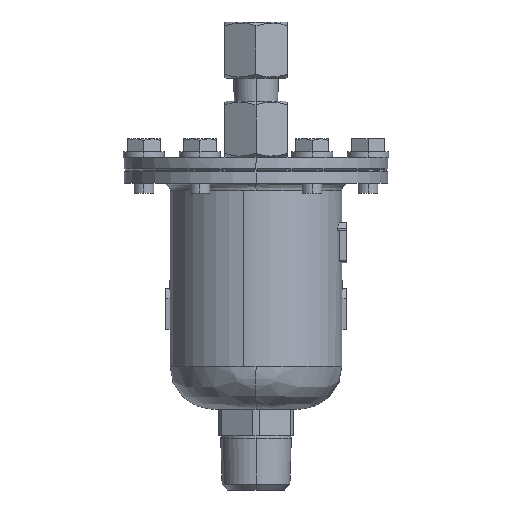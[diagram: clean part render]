
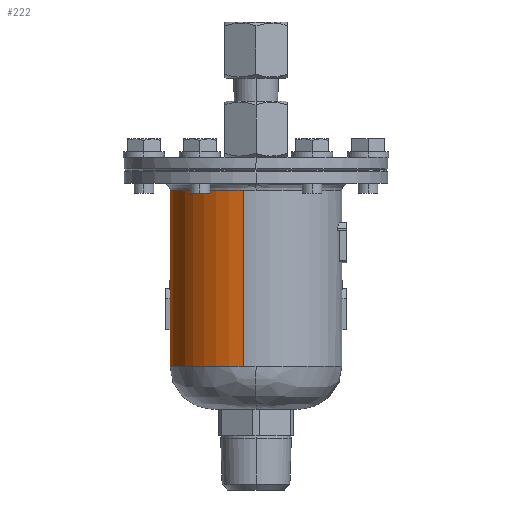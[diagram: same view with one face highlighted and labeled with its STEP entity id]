
A CAD part, left-side view. The second image highlights one B-rep face of the part: STEP entity #222.
In plain terms, the highlighted cylindrical face has radius 26.1 mm (diameter 52.2 mm), a partial arc.
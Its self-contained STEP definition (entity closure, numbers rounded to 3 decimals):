
#222=ADVANCED_FACE('',(#2117,#2118),#2116,.T.);
#2116=CYLINDRICAL_SURFACE('',#4074,26.1);
#2117=FACE_OUTER_BOUND('',#4075,.T.);
#2118=FACE_BOUND('',#4076,.T.);
#4071=CARTESIAN_POINT('',(0.,0.,0.));
#4072=DIRECTION('',(0.,0.,1.));
#4073=DIRECTION('',(-0.989,0.148,0.));
#4074=AXIS2_PLACEMENT_3D('',#4071,#4072,#4073);
#4075=EDGE_LOOP('',(#5443,#5444,#5445,#5446,#5447,#5448));
#4076=EDGE_LOOP('',(#5449,#5450,#5451,#5452,#5453,#5454,#5455));
#5443=ORIENTED_EDGE('',*,*,#6206,.F.);
#5444=ORIENTED_EDGE('',*,*,#6207,.F.);
#5445=ORIENTED_EDGE('',*,*,#6202,.T.);
#5446=ORIENTED_EDGE('',*,*,#6208,.T.);
#5447=ORIENTED_EDGE('',*,*,#6209,.T.);
#5448=ORIENTED_EDGE('',*,*,#6205,.F.);
#5449=ORIENTED_EDGE('',*,*,#5883,.T.);
#5450=ORIENTED_EDGE('',*,*,#5884,.T.);
#5451=ORIENTED_EDGE('',*,*,#5873,.T.);
#5452=ORIENTED_EDGE('',*,*,#5875,.T.);
#5453=ORIENTED_EDGE('',*,*,#5877,.T.);
#5454=ORIENTED_EDGE('',*,*,#5879,.T.);
#5455=ORIENTED_EDGE('',*,*,#5881,.T.);
#5873=EDGE_CURVE('',#7403,#7410,#7417,.T.);
#5875=EDGE_CURVE('',#7410,#7423,#7430,.T.);
#5877=EDGE_CURVE('',#7423,#7436,#7443,.T.);
#5879=EDGE_CURVE('',#7436,#7449,#7456,.T.);
#5881=EDGE_CURVE('',#7449,#7462,#7469,.T.);
#5883=EDGE_CURVE('',#7462,#7475,#7482,.T.);
#5884=EDGE_CURVE('',#7475,#7403,#7488,.T.);
#6202=EDGE_CURVE('',#9599,#9592,#9600,.T.);
#6205=EDGE_CURVE('',#9613,#9584,#9620,.T.);
#6206=EDGE_CURVE('',#9626,#9613,#9627,.T.);
#6207=EDGE_CURVE('',#9599,#9626,#9633,.T.);
#6208=EDGE_CURVE('',#9592,#9639,#9640,.T.);
#6209=EDGE_CURVE('',#9639,#9584,#9646,.T.);
#7403=VERTEX_POINT('',#10950);
#7410=VERTEX_POINT('',#10954);
#7417=LINE('',#10958,#10959);
#7423=VERTEX_POINT('',#10961);
#7430=CIRCLE('',#10968,26.1);
#7436=VERTEX_POINT('',#10969);
#7443=LINE('',#10973,#10974);
#7449=VERTEX_POINT('',#10976);
#7456=CIRCLE('',#10983,26.1);
#7462=VERTEX_POINT('',#10984);
#7469=(BOUNDED_CURVE() B_SPLINE_CURVE(2,(#10988,#10989,#10990),.UNSPECIFIED.,.F.,.F.) B_SPLINE_CURVE_WITH_KNOTS((3,3),(1.511,1.571),.UNSPECIFIED.) CURVE() GEOMETRIC_REPRESENTATION_ITEM() RATIONAL_B_SPLINE_CURVE((1.,1.,1.)) REPRESENTATION_ITEM('') );
#7475=VERTEX_POINT('',#10991);
#7482=(BOUNDED_CURVE() B_SPLINE_CURVE(2,(#10995,#10996,#10997),.UNSPECIFIED.,.F.,.F.) B_SPLINE_CURVE_WITH_KNOTS((3,3),(4.712,4.772),.UNSPECIFIED.) CURVE() GEOMETRIC_REPRESENTATION_ITEM() RATIONAL_B_SPLINE_CURVE((1.,1.,1.)) REPRESENTATION_ITEM('') );
#7488=CIRCLE('',#11001,26.1);
#9584=VERTEX_POINT('',#12787);
#9592=VERTEX_POINT('',#12793);
#9599=VERTEX_POINT('',#12798);
#9600=(BOUNDED_CURVE() B_SPLINE_CURVE(1,(#12799,#12800),.UNSPECIFIED.,.F.,.F.) B_SPLINE_CURVE_WITH_KNOTS((2,2),(0.083,0.917),.UNSPECIFIED.) CURVE() GEOMETRIC_REPRESENTATION_ITEM() RATIONAL_B_SPLINE_CURVE((1.,1.)) REPRESENTATION_ITEM('') );
#9613=VERTEX_POINT('',#12806);
#9620=(BOUNDED_CURVE() B_SPLINE_CURVE(1,(#12811,#12812),.UNSPECIFIED.,.F.,.F.) B_SPLINE_CURVE_WITH_KNOTS((2,2),(0.083,0.917),.UNSPECIFIED.) CURVE() GEOMETRIC_REPRESENTATION_ITEM() RATIONAL_B_SPLINE_CURVE((0.75,0.75)) REPRESENTATION_ITEM('') );
#9626=VERTEX_POINT('',#12813);
#9627=CIRCLE('',#12817,26.1);
#9633=CIRCLE('',#12821,26.1);
#9639=VERTEX_POINT('',#12822);
#9640=CIRCLE('',#12826,26.1);
#9646=CIRCLE('',#12830,26.1);
#10950=CARTESIAN_POINT('',(-0.625,26.093,58.039));
#10954=CARTESIAN_POINT('',(-0.625,26.093,48.664));
#10958=CARTESIAN_POINT('',(-0.625,26.093,58.039));
#10959=VECTOR('',#10960,9.375);
#10960=DIRECTION('',(0.,0.,-1.));
#10961=CARTESIAN_POINT('',(0.625,26.093,48.664));
#10965=CARTESIAN_POINT('',(0.,0.,48.664));
#10966=DIRECTION('',(0.,0.,-1.));
#10967=DIRECTION('',(1.,0.,0.));
#10968=AXIS2_PLACEMENT_3D('',#10965,#10966,#10967);
#10969=CARTESIAN_POINT('',(0.625,26.093,58.039));
#10973=CARTESIAN_POINT('',(0.625,26.093,48.664));
#10974=VECTOR('',#10975,9.375);
#10975=DIRECTION('',(0.,0.,1.));
#10976=CARTESIAN_POINT('',(1.562,26.053,58.039));
#10980=CARTESIAN_POINT('',(0.,0.,58.039));
#10981=DIRECTION('',(0.,0.,-1.));
#10982=DIRECTION('',(1.,0.,0.));
#10983=AXIS2_PLACEMENT_3D('',#10980,#10981,#10982);
#10984=CARTESIAN_POINT('',(0.,26.1,61.164));
#10988=CARTESIAN_POINT('',(1.562,26.053,58.039));
#10989=CARTESIAN_POINT('',(0.782,26.1,59.6));
#10990=CARTESIAN_POINT('',(0.,26.1,61.164));
#10991=CARTESIAN_POINT('',(-1.562,26.053,58.039));
#10995=CARTESIAN_POINT('',(0.,26.1,61.164));
#10996=CARTESIAN_POINT('',(-0.782,26.1,59.6));
#10997=CARTESIAN_POINT('',(-1.562,26.053,58.039));
#10998=CARTESIAN_POINT('',(0.,0.,58.039));
#10999=DIRECTION('',(0.,0.,-1.));
#11000=DIRECTION('',(1.,0.,0.));
#11001=AXIS2_PLACEMENT_3D('',#10998,#10999,#11000);
#12787=CARTESIAN_POINT('',(25.813,-3.86,91.));
#12793=CARTESIAN_POINT('',(-25.813,3.858,91.));
#12798=CARTESIAN_POINT('',(-25.813,3.858,37.5));
#12799=CARTESIAN_POINT('',(-25.813,3.858,37.5));
#12800=CARTESIAN_POINT('',(-25.813,3.858,91.));
#12806=CARTESIAN_POINT('',(25.813,-3.86,37.5));
#12811=CARTESIAN_POINT('',(25.813,-3.858,37.5));
#12812=CARTESIAN_POINT('',(25.813,-3.858,91.));
#12813=CARTESIAN_POINT('',(26.1,0.,37.5));
#12814=CARTESIAN_POINT('',(0.,0.,37.5));
#12815=DIRECTION('',(0.,0.,-1.));
#12816=DIRECTION('',(-1.,0.,0.));
#12817=AXIS2_PLACEMENT_3D('',#12814,#12815,#12816);
#12818=CARTESIAN_POINT('',(0.,0.,37.5));
#12819=DIRECTION('',(0.,0.,-1.));
#12820=DIRECTION('',(-1.,0.,0.));
#12821=AXIS2_PLACEMENT_3D('',#12818,#12819,#12820);
#12822=CARTESIAN_POINT('',(26.1,0.,91.));
#12823=CARTESIAN_POINT('',(0.,0.,91.));
#12824=DIRECTION('',(0.,0.,-1.));
#12825=DIRECTION('',(-1.,0.,0.));
#12826=AXIS2_PLACEMENT_3D('',#12823,#12824,#12825);
#12827=CARTESIAN_POINT('',(0.,0.,91.));
#12828=DIRECTION('',(0.,0.,-1.));
#12829=DIRECTION('',(-1.,0.,0.));
#12830=AXIS2_PLACEMENT_3D('',#12827,#12828,#12829);
